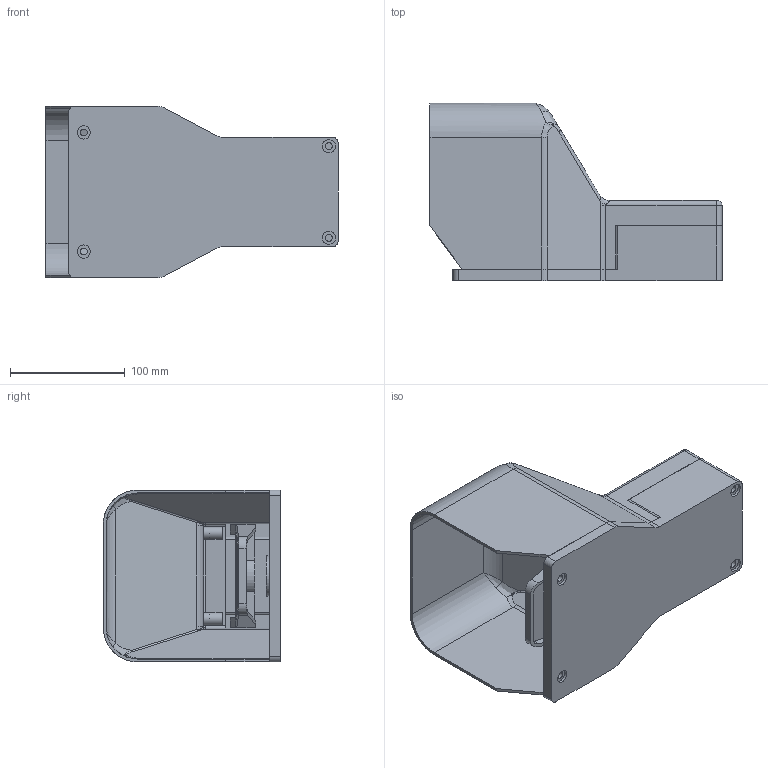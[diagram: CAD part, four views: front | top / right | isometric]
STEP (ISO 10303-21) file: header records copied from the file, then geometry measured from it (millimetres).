
FILE_DESCRIPTION (( 'STEP AP214' ), '1' );
FILE_NAME ('PCI.STEP', '2024-03-27T22:13:36', ( '' ), ( '' ), 'SwSTEP 2.0', 'SolidWorks 2020', '' );
FILE_SCHEMA (( 'AUTOMOTIVE_DESIGN' ));
Length unit declared in the file: millimetre
Products named in the file (4): PCI_Base; PCI; PCI_Coperchio; PCI_Pedale
Assembly tree (3 placements, depth 2):
  PCI
    PCI_Base
    PCI_Pedale
    PCI_Coperchio
Bounding box: 255 x 155 x 150 mm (x, y, z)
Volume: 600402.5 mm3; surface area: 293338.6 mm2
Topology: 3 solids, 3 shells, 306 faces, 770 edges, 491 vertices
Faces by surface type: plane 159, cylinder 93, bspline 50, torus 4
Full cylindrical faces by diameter (mm): 3 x4, 4.5 x4, 6 x4, 7 x1, 9 x6, 10 x2, 11 x4, 11.5 x4, 18 x1, 31 x1, 34.5 x1, 35 x1
Entity records: 15169 total; most frequent: CARTESIAN_POINT 8157, ORIENTED_EDGE 1436, DIRECTION 1318, EDGE_CURVE 718, VERTEX_POINT 480, AXIS2_PLACEMENT_3D 448, LINE 422, VECTOR 422
